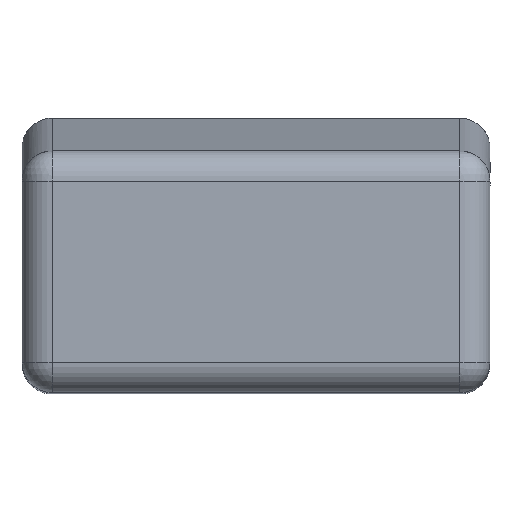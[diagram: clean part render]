
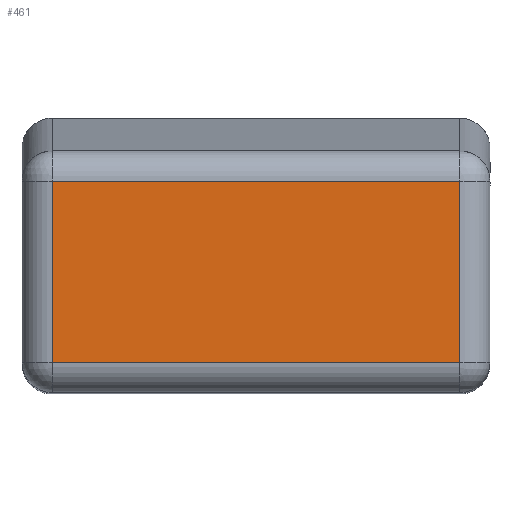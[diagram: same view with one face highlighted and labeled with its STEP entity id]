
A CAD part, top view. The second image highlights one B-rep face of the part: STEP entity #461.
In plain terms, the highlighted planar face has unit normal (0, 0, 1).
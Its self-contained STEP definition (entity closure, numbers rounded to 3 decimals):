
#67 = ORIENTED_EDGE ( 'NONE', *, *, #223, .T. ) ;
#75 = FACE_OUTER_BOUND ( 'NONE', #1827, .T. ) ;
#132 = AXIS2_PLACEMENT_3D ( 'NONE', #1020, #283, #1386 ) ;
#193 = DIRECTION ( 'NONE',  ( 0., 1., 0. ) ) ;
#223 = EDGE_CURVE ( 'NONE', #1773, #1014, #566, .T. ) ;
#283 = DIRECTION ( 'NONE',  ( 0., 0., -1. ) ) ;
#291 = DIRECTION ( 'NONE',  ( -1., 0., 0. ) ) ;
#433 = LINE ( 'NONE', #2022, #1108 ) ;
#461 = ADVANCED_FACE ( 'NONE', ( #75 ), #870, .F. ) ;
#494 = EDGE_CURVE ( 'NONE', #1014, #1849, #433, .T. ) ;
#566 = LINE ( 'NONE', #736, #1785 ) ;
#708 = ORIENTED_EDGE ( 'NONE', *, *, #494, .T. ) ;
#736 = CARTESIAN_POINT ( 'NONE',  ( 2., 0., 0. ) ) ;
#757 = ORIENTED_EDGE ( 'NONE', *, *, #1880, .T. ) ;
#856 = VERTEX_POINT ( 'NONE', #1718 ) ;
#870 = PLANE ( 'NONE',  #132 ) ;
#887 = CARTESIAN_POINT ( 'NONE',  ( 2., 14., 0. ) ) ;
#1014 = VERTEX_POINT ( 'NONE', #1431 ) ;
#1020 = CARTESIAN_POINT ( 'NONE',  ( 31., 0., 0. ) ) ;
#1108 = VECTOR ( 'NONE', #1855, 1000. ) ;
#1184 = DIRECTION ( 'NONE',  ( 0., -1., 0. ) ) ;
#1207 = LINE ( 'NONE', #1841, #1818 ) ;
#1305 = ORIENTED_EDGE ( 'NONE', *, *, #1324, .T. ) ;
#1324 = EDGE_CURVE ( 'NONE', #856, #1773, #1207, .T. ) ;
#1384 = VECTOR ( 'NONE', #193, 1000. ) ;
#1386 = DIRECTION ( 'NONE',  ( -1., 0., 0. ) ) ;
#1431 = CARTESIAN_POINT ( 'NONE',  ( 2., 2., 0. ) ) ;
#1605 = CARTESIAN_POINT ( 'NONE',  ( 29., 0., 0. ) ) ;
#1718 = CARTESIAN_POINT ( 'NONE',  ( 29., 14., 0. ) ) ;
#1773 = VERTEX_POINT ( 'NONE', #887 ) ;
#1779 = CARTESIAN_POINT ( 'NONE',  ( 29., 2., 0. ) ) ;
#1785 = VECTOR ( 'NONE', #1184, 1000. ) ;
#1818 = VECTOR ( 'NONE', #291, 1000. ) ;
#1827 = EDGE_LOOP ( 'NONE', ( #1305, #67, #708, #757 ) ) ;
#1841 = CARTESIAN_POINT ( 'NONE',  ( 31., 14., 0. ) ) ;
#1849 = VERTEX_POINT ( 'NONE', #1779 ) ;
#1855 = DIRECTION ( 'NONE',  ( 1., 0., 0. ) ) ;
#1880 = EDGE_CURVE ( 'NONE', #1849, #856, #1956, .T. ) ;
#1956 = LINE ( 'NONE', #1605, #1384 ) ;
#2022 = CARTESIAN_POINT ( 'NONE',  ( 31., 2., 0. ) ) ;
